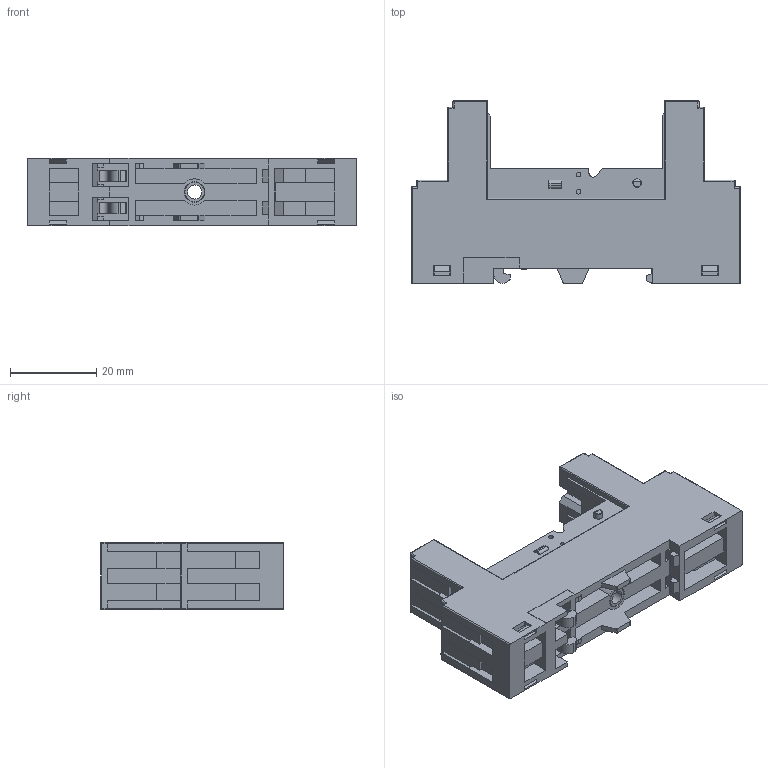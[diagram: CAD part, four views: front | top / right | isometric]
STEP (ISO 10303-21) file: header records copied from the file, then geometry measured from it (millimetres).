
FILE_DESCRIPTION (( 'STEP AP203' ), '1' );
FILE_NAME ('SRB08-E 俋倛.STEP', '2023-01-12T06:17:52', ( '' ), ( '' ), 'SwSTEP 2.0', 'SolidWorks 2018', '' );
FILE_SCHEMA (( 'CONFIG_CONTROL_DESIGN' ));
Length unit declared in the file: millimetre
Products named in the file (1): SRB08-E 俋倛
Bounding box: 76.4 x 42.5 x 15.8 mm (x, y, z)
Volume: 28417.4 mm3; surface area: 13355.3 mm2
Topology: 1 solids, 1 shells, 850 faces, 2285 edges, 1458 vertices
Faces by surface type: plane 557, cylinder 159, torus 78, cone 36, sphere 12, bspline 8
Entity records: 27740 total; most frequent: CARTESIAN_POINT 6680, ORIENTED_EDGE 4514, DIRECTION 4153, EDGE_CURVE 2257, VECTOR 1563, LINE 1563, VERTEX_POINT 1458, AXIS2_PLACEMENT_3D 1295
